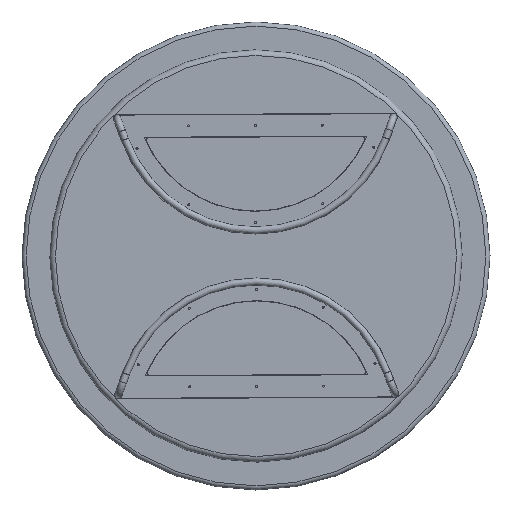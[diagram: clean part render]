
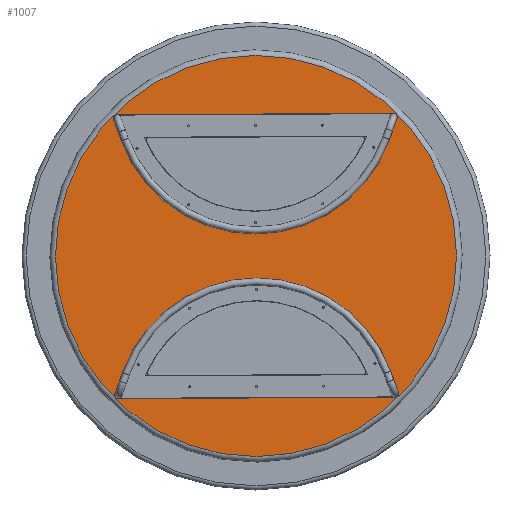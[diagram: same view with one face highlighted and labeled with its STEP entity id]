
A CAD part, front view. The second image highlights one B-rep face of the part: STEP entity #1007.
In plain terms, the highlighted planar face has unit normal (0, -1, 0).
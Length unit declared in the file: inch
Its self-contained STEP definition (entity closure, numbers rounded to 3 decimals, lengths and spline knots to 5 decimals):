
#59=FACE_BOUND('',#341,.T.);
#60=FACE_BOUND('',#342,.T.);
#86=LINE('',#1768,#150);
#91=LINE('',#1782,#155);
#95=LINE('',#1794,#159);
#98=LINE('',#1807,#162);
#99=LINE('',#1811,#163);
#100=LINE('',#1815,#164);
#150=VECTOR('',#1412,0.3937);
#155=VECTOR('',#1425,0.3937);
#159=VECTOR('',#1437,0.3937);
#162=VECTOR('',#1452,0.3937);
#163=VECTOR('',#1455,0.3937);
#164=VECTOR('',#1458,0.3937);
#279=FACE_OUTER_BOUND('',#340,.T.);
#340=EDGE_LOOP('',(#754));
#341=EDGE_LOOP('',(#755,#756,#757,#758,#759,#760));
#342=EDGE_LOOP('',(#761,#762,#763,#764,#765,#766));
#416=CIRCLE('',#1237,12.80704);
#418=CIRCLE('',#1241,0.34375);
#420=CIRCLE('',#1245,0.34375);
#422=CIRCLE('',#1249,18.);
#423=CIRCLE('',#1250,0.34375);
#424=CIRCLE('',#1251,0.34375);
#425=CIRCLE('',#1252,12.80704);
#484=VERTEX_POINT('',#1766);
#485=VERTEX_POINT('',#1767);
#488=VERTEX_POINT('',#1775);
#490=VERTEX_POINT('',#1781);
#492=VERTEX_POINT('',#1787);
#494=VERTEX_POINT('',#1793);
#496=VERTEX_POINT('',#1803);
#497=VERTEX_POINT('',#1805);
#498=VERTEX_POINT('',#1806);
#499=VERTEX_POINT('',#1808);
#500=VERTEX_POINT('',#1810);
#501=VERTEX_POINT('',#1812);
#502=VERTEX_POINT('',#1814);
#579=EDGE_CURVE('',#484,#485,#86,.T.);
#583=EDGE_CURVE('',#485,#488,#416,.T.);
#586=EDGE_CURVE('',#488,#490,#91,.T.);
#589=EDGE_CURVE('',#490,#492,#418,.T.);
#592=EDGE_CURVE('',#492,#494,#95,.T.);
#595=EDGE_CURVE('',#494,#484,#420,.T.);
#597=EDGE_CURVE('',#496,#496,#422,.T.);
#598=EDGE_CURVE('',#497,#498,#98,.T.);
#599=EDGE_CURVE('',#498,#499,#423,.T.);
#600=EDGE_CURVE('',#499,#500,#99,.T.);
#601=EDGE_CURVE('',#500,#501,#424,.T.);
#602=EDGE_CURVE('',#501,#502,#100,.T.);
#603=EDGE_CURVE('',#502,#497,#425,.T.);
#754=ORIENTED_EDGE('',*,*,#597,.F.);
#755=ORIENTED_EDGE('',*,*,#598,.T.);
#756=ORIENTED_EDGE('',*,*,#599,.T.);
#757=ORIENTED_EDGE('',*,*,#600,.T.);
#758=ORIENTED_EDGE('',*,*,#601,.T.);
#759=ORIENTED_EDGE('',*,*,#602,.T.);
#760=ORIENTED_EDGE('',*,*,#603,.T.);
#761=ORIENTED_EDGE('',*,*,#579,.T.);
#762=ORIENTED_EDGE('',*,*,#583,.T.);
#763=ORIENTED_EDGE('',*,*,#586,.T.);
#764=ORIENTED_EDGE('',*,*,#589,.T.);
#765=ORIENTED_EDGE('',*,*,#592,.T.);
#766=ORIENTED_EDGE('',*,*,#595,.T.);
#973=PLANE('',#1248);
#1007=ADVANCED_FACE('',(#279,#59,#60),#973,.F.);
#1237=AXIS2_PLACEMENT_3D('',#1776,#1418,#1419);
#1241=AXIS2_PLACEMENT_3D('',#1788,#1430,#1431);
#1245=AXIS2_PLACEMENT_3D('',#1799,#1442,#1443);
#1248=AXIS2_PLACEMENT_3D('',#1802,#1448,#1449);
#1249=AXIS2_PLACEMENT_3D('',#1804,#1450,#1451);
#1250=AXIS2_PLACEMENT_3D('',#1809,#1453,#1454);
#1251=AXIS2_PLACEMENT_3D('',#1813,#1456,#1457);
#1252=AXIS2_PLACEMENT_3D('',#1816,#1459,#1460);
#1412=DIRECTION('',(0.342,0.,0.94));
#1418=DIRECTION('center_axis',(0.,1.,0.));
#1419=DIRECTION('ref_axis',(-0.94,0.,0.342));
#1425=DIRECTION('',(0.342,0.,-0.94));
#1430=DIRECTION('center_axis',(0.,1.,0.));
#1431=DIRECTION('ref_axis',(0.94,0.,0.342));
#1437=DIRECTION('',(-1.,0.,0.));
#1442=DIRECTION('center_axis',(0.,1.,0.));
#1443=DIRECTION('ref_axis',(0.,0.,-1.));
#1448=DIRECTION('center_axis',(0.,1.,0.));
#1449=DIRECTION('ref_axis',(0.,0.,1.));
#1450=DIRECTION('center_axis',(0.,1.,0.));
#1451=DIRECTION('ref_axis',(1.,0.,0.));
#1452=DIRECTION('',(-0.342,0.,0.94));
#1453=DIRECTION('center_axis',(0.,1.,0.));
#1454=DIRECTION('ref_axis',(0.,0.,1.));
#1455=DIRECTION('',(1.,0.,0.));
#1456=DIRECTION('center_axis',(0.,1.,0.));
#1457=DIRECTION('ref_axis',(0.94,0.,-0.342));
#1458=DIRECTION('',(-0.342,0.,-0.94));
#1459=DIRECTION('center_axis',(0.,1.,0.));
#1460=DIRECTION('ref_axis',(-0.94,0.,-0.342));
#1766=CARTESIAN_POINT('',(-12.71952,0.,-12.279));
#1767=CARTESIAN_POINT('',(-12.03609,0.,-10.3994));
#1768=CARTESIAN_POINT('',(-9.66349,0.,-3.87419));
#1775=CARTESIAN_POINT('',(12.03609,0.,-10.3994));
#1776=CARTESIAN_POINT('Origin',(0.,0.,-14.77579));
#1781=CARTESIAN_POINT('',(12.71952,0.,-12.279));
#1782=CARTESIAN_POINT('',(10.0052,0.,-4.814));
#1787=CARTESIAN_POINT('',(12.39647,0.,-12.74022));
#1788=CARTESIAN_POINT('Origin',(12.39647,0.,-12.39647));
#1793=CARTESIAN_POINT('',(-12.39647,0.,-12.74022));
#1794=CARTESIAN_POINT('',(-6.19823,0.,-12.74022));
#1799=CARTESIAN_POINT('Origin',(-12.39647,0.,-12.39647));
#1802=CARTESIAN_POINT('Origin',(0.,0.,0.));
#1803=CARTESIAN_POINT('',(0.,0.,-18.));
#1804=CARTESIAN_POINT('Origin',(0.,0.,0.));
#1805=CARTESIAN_POINT('',(-12.03609,0.,10.3994));
#1806=CARTESIAN_POINT('',(-12.71952,0.,12.279));
#1807=CARTESIAN_POINT('',(-9.66349,0.,3.87419));
#1808=CARTESIAN_POINT('',(-12.39647,0.,12.74022));
#1809=CARTESIAN_POINT('Origin',(-12.39647,0.,12.39647));
#1810=CARTESIAN_POINT('',(12.39647,0.,12.74022));
#1811=CARTESIAN_POINT('',(-6.19823,0.,12.74022));
#1812=CARTESIAN_POINT('',(12.71952,0.,12.279));
#1813=CARTESIAN_POINT('Origin',(12.39647,0.,12.39647));
#1814=CARTESIAN_POINT('',(12.03609,0.,10.3994));
#1815=CARTESIAN_POINT('',(10.0052,0.,4.814));
#1816=CARTESIAN_POINT('Origin',(0.,0.,14.77579));
